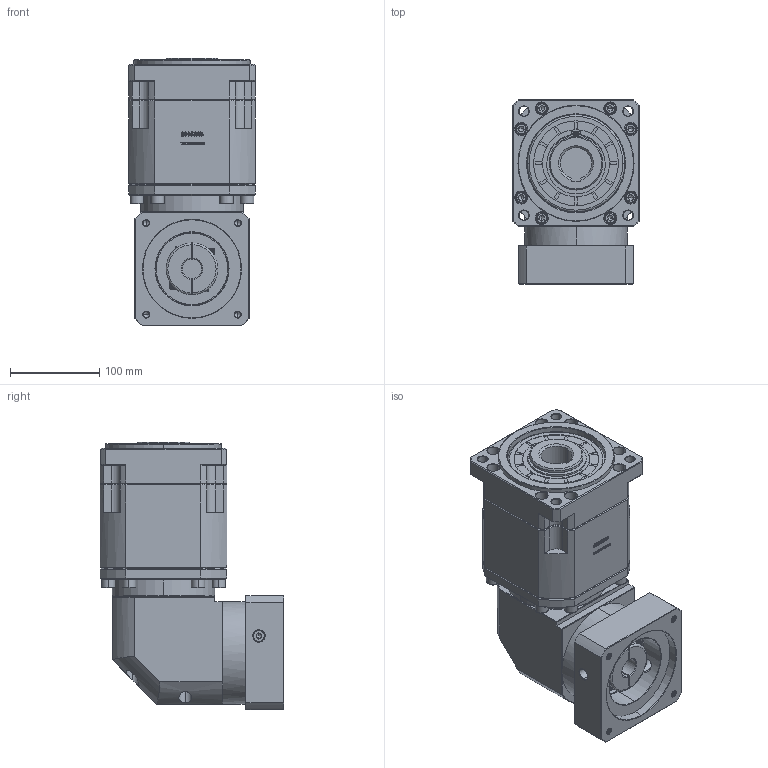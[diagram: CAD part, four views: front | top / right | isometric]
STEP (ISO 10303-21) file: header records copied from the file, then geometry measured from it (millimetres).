
FILE_DESCRIPTION (( 'STEP AP214' ), '1' );
FILE_NAME ('ZBR142A-K35-L3-22-110-145-M8.step', '2023-03-20T04:17:08', ( '' ), ( '' ), 'SwSTEP 2.0', 'SolidWorks 2016', '' );
FILE_SCHEMA (( 'AUTOMOTIVE_DESIGN' ));
Length unit declared in the file: millimetre
Products named in the file (1): ZBR142A-K35-L3-22-110-145-M8
Bounding box: 142 x 205.9 x 300.2 mm (x, y, z)
Volume: 5067247.4 mm3; surface area: 339311.6 mm2
Topology: 6 solids, 6 shells, 3131 faces, 8257 edges, 5293 vertices
Faces by surface type: plane 1645, bspline 586, cylinder 465, cone 391, torus 44
Entity records: 164121 total; most frequent: CARTESIAN_POINT 56729, ORIENTED_EDGE 16410, DIRECTION 12869, EDGE_CURVE 8205, LINE 5529, VECTOR 5529, VERTEX_POINT 5293, AXIS2_PLACEMENT_3D 3670
